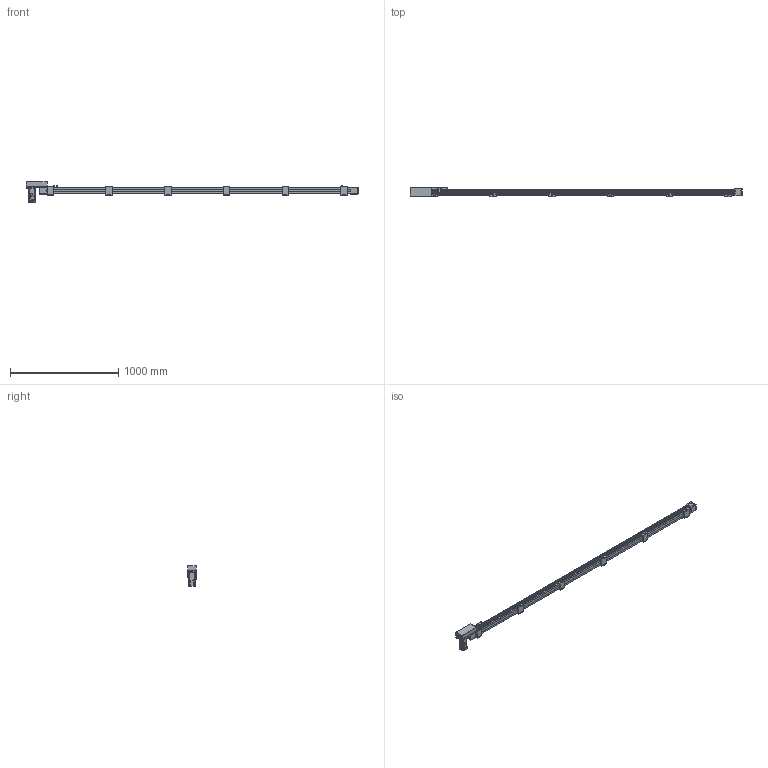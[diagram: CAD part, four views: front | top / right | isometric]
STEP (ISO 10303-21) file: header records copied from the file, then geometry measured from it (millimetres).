
FILE_DESCRIPTION(/* description */ ('STEP AP214'),/* implementation_level */ '2;1');
FILE_NAME(/* name */ 'SK60-P13-S2650-R-T40-C1-N(0)',/* time_stamp */ '2023-04-06T04:28:46+02:00',/* author */ ('License CC BY-ND 4.0'),/* organization */ ('CADENAS'),/* preprocessor_version */ 'ST-DEVELOPER v19.3',/* originating_system */ 'PARTsolutions',/* authorisation */ ' ');
FILE_SCHEMA (('AUTOMOTIVE_DESIGN {1 0 10303 214 3 1 1}'));
Length unit declared in the file: millimetre
Products named in the file (10): SK60-P13-S2650-R-T40-C1-N(0); PSC140-sensor; SK60-S450_seat; SK60-S450-BL-C1_slider; SK60_body3; SK60_body6; SK60-BL_body2; T40-p1; SK60-R_fb; SK60-S2650-R-C1_body
Assembly tree (20 placements, depth 2):
  SK60-P13-S2650-R-T40-C1-N(0)
    PSC140-sensor  x3
    SK60-S450_seat  x6
    SK60-S450-BL-C1_slider
    SK60_body3  x3
    SK60_body6  x2
    SK60-BL_body2  x2
    T40-p1
    SK60-R_fb
    SK60-S2650-R-C1_body
Bounding box: 3070.5 x 90 x 189.7 mm (x, y, z)
Volume: 11253717.6 mm3; surface area: 1327566.1 mm2
Topology: 20 solids, 20 shells, 986 faces, 2440 edges, 1605 vertices
Faces by surface type: plane 620, cylinder 326, cone 38, torus 2
Full cylindrical faces by diameter (mm): 2.8 x3, 3.3 x4, 4 x2, 4.5 x30, 4.6 x3, 4.917 x32, 5 x6, 5.478 x4, 5.5 x35, 6.5 x12, 7 x2, 8 x4, 8.5 x4, 9.988 x4, 10 x24, 14 x1, 47 x3, 50 x2
Entity records: 18687 total; most frequent: DIRECTION 3192, CARTESIAN_POINT 3154, ORIENTED_EDGE 2940, EDGE_CURVE 1470, AXIS2_PLACEMENT_3D 1072, LINE 1048, VECTOR 1048, VERTEX_POINT 1034
